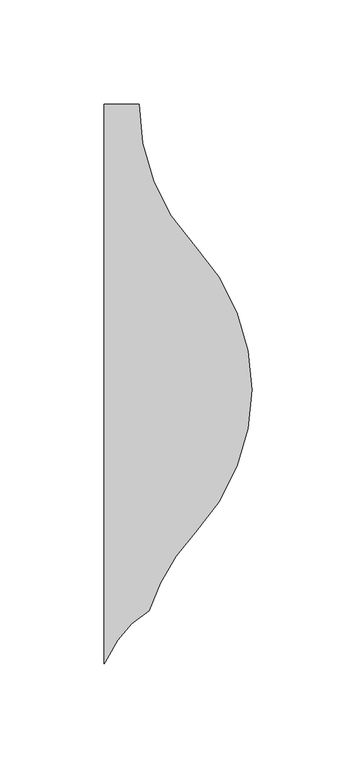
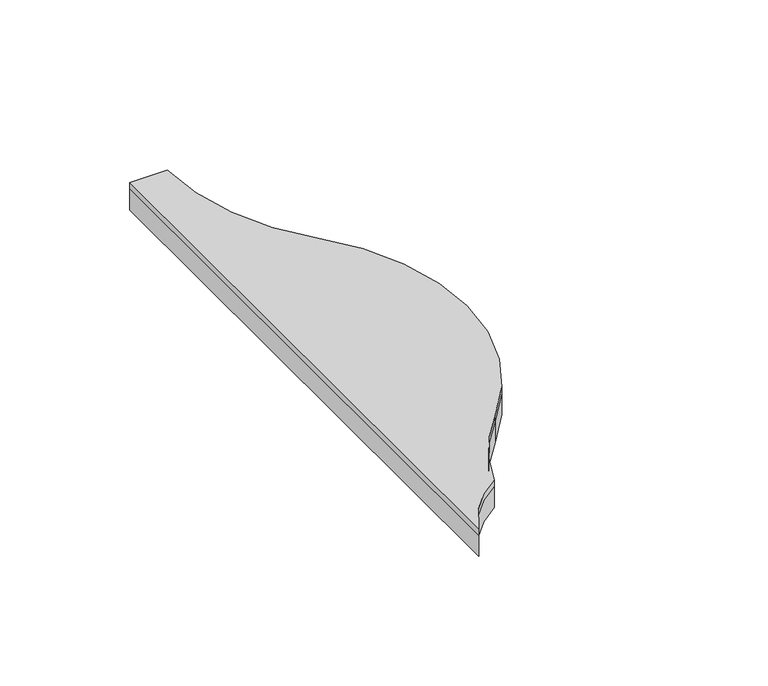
"""IFC4 building model written with IfcOpenShell, lengths in millimetres: proxy geometry, FilzFelt_Fish_Block : Fish Block."""

from ifc_helpers import new_model, si_unit, frame, origin, place, context, project, spatial, polyline, circle_curve, source, transform, mapped, element, save
from ifc_brep_helpers import plane_surface, cylinder_surface, revolved_surface, advanced_brep


def specialty_equipment_ba63f378(model_context):
    return source(origin(), model_context, "Body", "AdvancedBrep", [
        advanced_brep(
        [(53.5486457, -68.6120133, 10.0210937), (31.2619065, -106.3338576, 10.0210937), (11.0103348, -129.4133496, 10.0210937), (9.5821396, -131.8328689, 10.0210937), (9.5821396, 137.2240266, 10.0210937), (26.3830688, 137.2240266, 10.0210937), (53.5486457, 68.6120133, 10.0210937), (53.5486457, -68.6120133, 12.9976563), (80.7142226, 0.0, 12.9976563), (53.5486457, 68.6120133, 12.9976563), (26.3830688, 137.2240266, 12.9976563), (9.5821396, 137.2240266, 12.9976563), (9.5821396, -131.8328689, 12.9976563), (11.0103348, -129.4133496, 12.9976563), (31.2619065, -106.3338576, 12.9976563)],
        [
            (0, 1, circle_curve(frame((126.6124317, -137.2240266, 10.0210937), z_axis=(0.0, 0.0, 1.0), x_axis=(-1.0, 0.0, 0.0)), 100.2293629)),
            (1, 2, circle_curve(frame((57.9263497, -150.1559416, 10.0210937), z_axis=(0.0, 0.0, 1.0), x_axis=(-1.0, 0.0, 0.0)), 51.2968574)),
            (2, 3, circle_curve(frame((0.0, -124.5454408, 10.0210937), z_axis=(0.0, 0.0, -1.0), x_axis=(-1.0, 0.0, 0.0)), 12.0384388)),
            (3, 4),
            (4, 5),
            (5, 6, circle_curve(frame((126.6124317, 137.2240266, 10.0210937), z_axis=(0.0, 0.0, 1.0), x_axis=(-1.0, 0.0, 0.0)), 100.2293629)),
            (6, 0, circle_curve(frame((-19.5151403, 0.0, 10.0210937), z_axis=(0.0, 0.0, -1.0), x_axis=(-1.0, 0.0, 0.0)), 100.2293629)),
            (7, 8, circle_curve(frame((-19.5151403, 0.0, 12.9976563), z_axis=(0.0, 0.0, 1.0), x_axis=(-1.0, 0.0, 0.0)), 100.2293629)),
            (8, 9, circle_curve(frame((-19.5151403, 0.0, 12.9976563), z_axis=(0.0, 0.0, 1.0), x_axis=(-1.0, 0.0, 0.0)), 100.2293629)),
            (9, 10, circle_curve(frame((126.6124317, 137.2240266, 12.9976563), z_axis=(0.0, 0.0, -1.0), x_axis=(-1.0, 0.0, 0.0)), 100.2293629)),
            (10, 11),
            (11, 12),
            (12, 13, circle_curve(frame((0.0, -124.5454408, 12.9976563), z_axis=(0.0, 0.0, 1.0), x_axis=(-1.0, 0.0, 0.0)), 12.0384388)),
            (13, 14, circle_curve(frame((57.9263497, -150.1559416, 12.9976563), z_axis=(0.0, 0.0, -1.0), x_axis=(-1.0, 0.0, 0.0)), 51.2968574)),
            (14, 7, circle_curve(frame((126.6124317, -137.2240266, 12.9976563), z_axis=(0.0, 0.0, -1.0), x_axis=(-1.0, 0.0, 0.0)), 100.2293629)),
            (6, 9),
            (7, 0),
            (5, 10),
            (12, 3),
            (2, 13),
            (1, 14),
            (11, 4),
        ],
        [
            plane_surface(frame((0.0, 0.0, 10.0210937), z_axis=(0.0, 0.0, -1.0), x_axis=(0.0, 1.0, 0.0))),
            plane_surface(frame((0.0, 0.0, 12.9976563), z_axis=(0.0, 0.0, 1.0), x_axis=(0.0, 1.0, 0.0))),
            cylinder_surface(frame((-19.5151403, 0.0, 10.0210937), z_axis=(0.0, 0.0, -1.0), x_axis=(-1.0, 0.0, 0.0)), 100.2293629),
            revolved_surface(polyline([(26.383068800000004, 137.2240266, 12.9976563), (26.383068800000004, 137.2240266, 10.0210937)]), (126.6124317, 137.2240266, 10.0210937), (0.0, 0.0, 1.0)),
            cylinder_surface(frame((0.0, -124.5454408, 10.0210937), z_axis=(0.0, 0.0, -1.0), x_axis=(-1.0, 0.0, 0.0)), 12.0384388),
            revolved_surface(polyline([(6.629492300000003, -150.1559416, 12.9976563), (6.629492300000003, -150.1559416, 10.0210937)]), (57.9263497, -150.1559416, 10.0210937), (0.0, 0.0, 1.0)),
            revolved_surface(polyline([(26.383068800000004, -137.2240266, 12.9976563), (26.383068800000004, -137.2240266, 10.0210937)]), (126.6124317, -137.2240266, 10.0210937), (0.0, 0.0, 1.0)),
            plane_surface(frame((9.5821396, -168.3338795, 12.9976562), z_axis=(-1.0, 0.0, 0.0), x_axis=(0.0, 1.0, 0.0))),
            plane_surface(frame((112.4642226, 137.2240266, 12.9976562), z_axis=(0.0, 1.0, 0.0), x_axis=(0.0, 0.0, -1.0))),
        ],
        [
            (0, [[1, 2, 3, 4, 5, 6, 7]]),
            (1, [[8, 9, 10, 11, 12, 13, 14, 15]]),
            (2, [[16, -9, -8, 17, -7]]),
            (3, [[-6, 18, -10, -16]]),
            (4, [[-13, 19, -3, 20]]),
            (5, [[21, -14, -20, -2]]),
            (6, [[-17, -15, -21, -1]]),
            (7, [[-12, 22, -4, -19]]),
            (8, [[-22, -11, -18, -5]]),
        ],
    ),
        advanced_brep(
        [(11.0103348, -129.4133496, 0.0), (9.5821396, -131.8328689, 0.0), (9.5821396, 137.2240266, 0.0), (26.3830688, 137.2240266, 0.0), (53.5486457, 68.6120133, 0.0), (80.7142226, 0.0, 0.0), (53.5486457, -68.6120133, 0.0), (31.2619065, -106.3338576, 0.0), (53.5486457, 68.6120133, 10.0210937), (26.3830688, 137.2240266, 10.0210937), (9.5821396, 137.2240266, 10.0210937), (9.5821396, -131.8328689, 10.0210937), (11.0103348, -129.4133496, 10.0210937), (31.2619065, -106.3338576, 10.0210937), (53.5486457, -68.6120133, 10.0210937)],
        [
            (0, 1, circle_curve(frame((0.0, -124.5454408, 0.0), z_axis=(0.0, 0.0, -1.0), x_axis=(-1.0, 0.0, 0.0)), 12.0384388)),
            (1, 2),
            (2, 3),
            (3, 4, circle_curve(frame((126.6124317, 137.2240266, 0.0), z_axis=(0.0, 0.0, 1.0), x_axis=(-1.0, 0.0, 0.0)), 100.2293629)),
            (4, 5, circle_curve(frame((-19.5151403, 0.0, 0.0), z_axis=(0.0, 0.0, -1.0), x_axis=(-1.0, 0.0, 0.0)), 100.2293629)),
            (5, 6, circle_curve(frame((-19.5151403, 0.0, 0.0), z_axis=(0.0, 0.0, -1.0), x_axis=(-1.0, 0.0, 0.0)), 100.2293629)),
            (6, 7, circle_curve(frame((126.6124317, -137.2240266, 0.0), z_axis=(0.0, 0.0, 1.0), x_axis=(-1.0, 0.0, 0.0)), 100.2293629)),
            (7, 0, circle_curve(frame((57.9263497, -150.1559416, 0.0), z_axis=(0.0, 0.0, 1.0), x_axis=(-1.0, 0.0, 0.0)), 51.2968574)),
            (8, 9, circle_curve(frame((126.6124317, 137.2240266, 10.0210937), z_axis=(0.0, 0.0, -1.0), x_axis=(-1.0, 0.0, 0.0)), 100.2293629)),
            (9, 10),
            (10, 11),
            (11, 12, circle_curve(frame((0.0, -124.5454408, 10.0210937), z_axis=(0.0, 0.0, 1.0), x_axis=(-1.0, 0.0, 0.0)), 12.0384388)),
            (12, 13, circle_curve(frame((57.9263497, -150.1559416, 10.0210937), z_axis=(0.0, 0.0, -1.0), x_axis=(-1.0, 0.0, 0.0)), 51.2968574)),
            (13, 14, circle_curve(frame((126.6124317, -137.2240266, 10.0210937), z_axis=(0.0, 0.0, -1.0), x_axis=(-1.0, 0.0, 0.0)), 100.2293629)),
            (14, 8, circle_curve(frame((-19.5151403, 0.0, 10.0210937), z_axis=(0.0, 0.0, 1.0), x_axis=(-1.0, 0.0, 0.0)), 100.2293629)),
            (11, 1),
            (0, 12),
            (7, 13),
            (6, 14),
            (4, 8),
            (3, 9),
            (10, 2),
        ],
        [
            plane_surface(frame((0.0, 0.0, 0.0), z_axis=(0.0, 0.0, -1.0), x_axis=(0.0, 1.0, 0.0))),
            plane_surface(frame((0.0, 0.0, 10.0210937), z_axis=(0.0, 0.0, 1.0), x_axis=(0.0, 1.0, 0.0))),
            cylinder_surface(frame((0.0, -124.5454408, 0.0), z_axis=(0.0, 0.0, -1.0), x_axis=(-1.0, 0.0, 0.0)), 12.0384388),
            revolved_surface(polyline([(6.629492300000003, -150.1559416, 10.0210937), (6.629492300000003, -150.1559416, 0.0)]), (57.9263497, -150.1559416, 0.0), (0.0, 0.0, 1.0)),
            revolved_surface(polyline([(26.383068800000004, -137.2240266, 10.0210937), (26.383068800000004, -137.2240266, 0.0)]), (126.6124317, -137.2240266, 0.0), (0.0, 0.0, 1.0)),
            cylinder_surface(frame((-19.5151403, 0.0, 0.0), z_axis=(0.0, 0.0, -1.0), x_axis=(-1.0, 0.0, 0.0)), 100.2293629),
            revolved_surface(polyline([(26.383068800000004, 137.2240266, 10.0210937), (26.383068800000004, 137.2240266, 0.0)]), (126.6124317, 137.2240266, 0.0), (0.0, 0.0, 1.0)),
            plane_surface(frame((9.5821396, -168.3338795, 12.9976562), z_axis=(-1.0, 0.0, 0.0), x_axis=(0.0, 1.0, 0.0))),
            plane_surface(frame((112.4642226, 137.2240266, 12.9976562), z_axis=(0.0, 1.0, 0.0), x_axis=(0.0, 0.0, -1.0))),
        ],
        [
            (0, [[1, 2, 3, 4, 5, 6, 7, 8]]),
            (1, [[9, 10, 11, 12, 13, 14, 15]]),
            (2, [[-12, 16, -1, 17]]),
            (3, [[18, -13, -17, -8]]),
            (4, [[19, -14, -18, -7]]),
            (5, [[-19, -6, -5, 20, -15]]),
            (6, [[-4, 21, -9, -20]]),
            (7, [[-11, 22, -2, -16]]),
            (8, [[-22, -10, -21, -3]]),
        ],
    ),
    ])


if __name__ == "__main__":
    model = new_model("IFC4")
    model_context = context("Model", 3, world=origin())
    ifc_project = project(units=[si_unit("LENGTHUNIT", "METRE", prefix="MILLI")], contexts=[model_context])
    site = spatial("IfcSite", under=ifc_project)
    building = spatial("IfcBuilding", under=site)
    placement = place(None, origin())
    specialty_equipment_shape = specialty_equipment_ba63f378(model_context)
    element("IfcBuildingElementProxy", 1, Name="FilzFelt_Fish_Block : Fish Block", ObjectType="FilzFelt_Fish_Block : Fish Block", at=placement, inside=building, context=model_context, shape_type="MappedRepresentation", body=[
        mapped(specialty_equipment_shape, transform((0.0, 0.0, 0.0), x_axis=(1.0, 0.0, 0.0), y_axis=(0.0, 1.0, 0.0), z_axis=(0.0, 0.0, 1.0))),
    ])
    save(model, "model.ifc")
